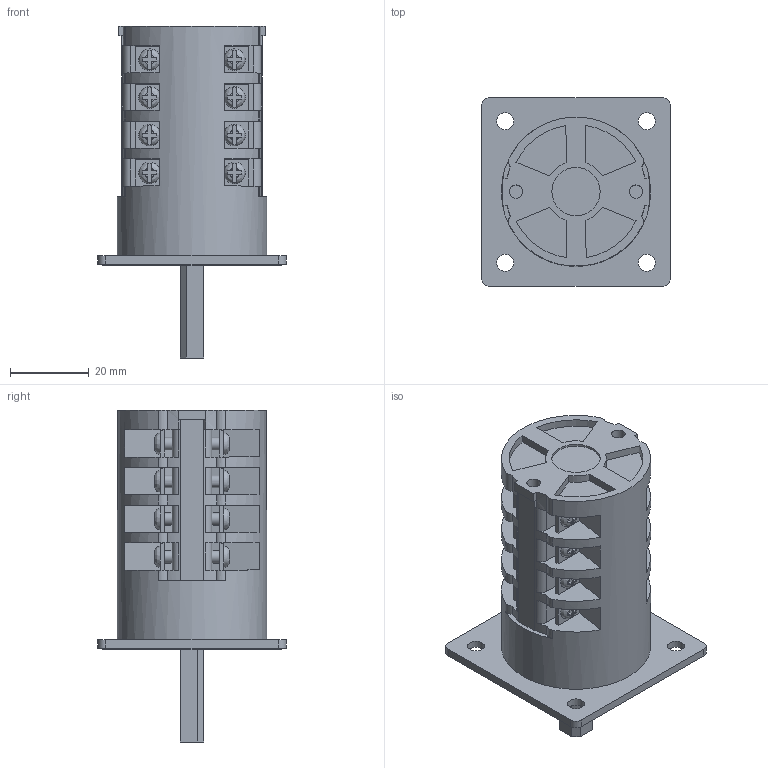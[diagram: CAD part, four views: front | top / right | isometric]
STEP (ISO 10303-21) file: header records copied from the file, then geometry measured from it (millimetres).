
FILE_DESCRIPTION(/* description */ (''),/* implementation_level */ '2;1');
FILE_NAME(/* name */ '4G10-U_standard_4_korpusy.stp',/* time_stamp */ '2021-07-21T07:36:44+02:00',/* author */ (''),/* organization */ (''),/* preprocessor_version */ 'ST-DEVELOPER v18.1',/* originating_system */ 'SIEMENS PLM Software NX 1965',/* authorisation */ '');
FILE_SCHEMA (('AUTOMOTIVE_DESIGN { 1 0 10303 214 3 1 1 1 }'));
Length unit declared in the file: millimetre
Products named in the file (1): 4G10-U_standard_4_korpusy_stp
Bounding box: 48 x 48 x 84.5 mm (x, y, z)
Volume: 60275.1 mm3; surface area: 21321.6 mm2
Topology: 1 solids, 1 shells, 641 faces, 1738 edges, 1156 vertices
Faces by surface type: plane 510, cylinder 113, bspline 16, torus 2
Full cylindrical faces by diameter (mm): 3.2 x16, 3.4 x3, 4.3 x4, 6.2 x2, 7.2 x4, 12.3 x1, 16.2 x1, 16.8 x1, 38 x1
Entity records: 20107 total; most frequent: CARTESIAN_POINT 4329, ORIENTED_EDGE 3294, DIRECTION 3149, EDGE_CURVE 1647, VERTEX_POINT 1116, LINE 1069, VECTOR 1069, AXIS2_PLACEMENT_3D 1040
